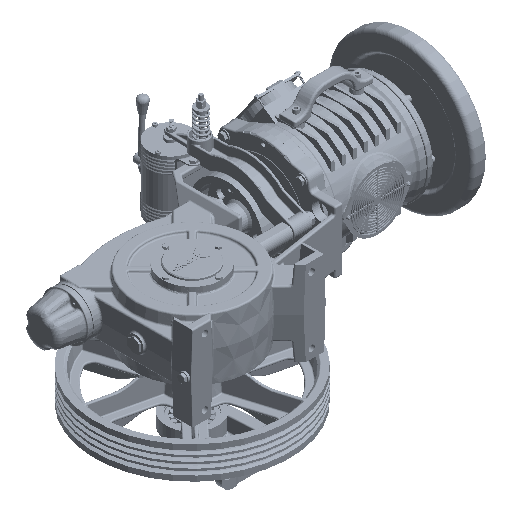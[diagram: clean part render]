
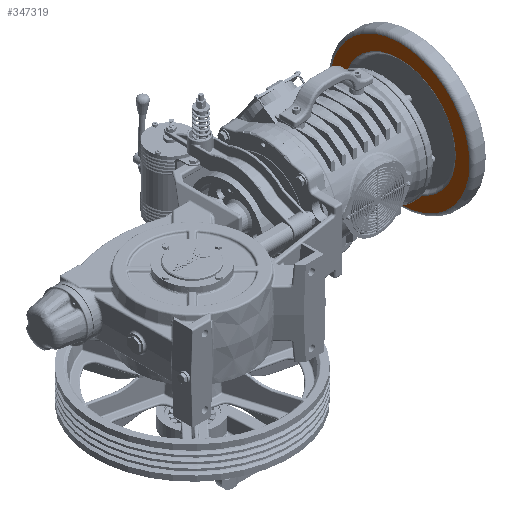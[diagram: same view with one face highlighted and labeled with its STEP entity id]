
A CAD part, isometric view. The second image highlights one B-rep face of the part: STEP entity #347319.
In plain terms, the highlighted planar face has unit normal (-1, 0, 0).
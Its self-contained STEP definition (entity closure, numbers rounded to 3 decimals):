
#39161 = AXIS2_PLACEMENT_3D ( 'NONE', #312852, #485429, #445772 ) ;
#44591 = CARTESIAN_POINT ( 'NONE',  ( 234.876, 46.366, 178.986 ) ) ;
#61684 = CIRCLE ( 'NONE', #558992, 152.887 ) ;
#65727 = VERTEX_POINT ( 'NONE', #242021 ) ;
#69615 = FACE_BOUND ( 'NONE', #262843, .T. ) ;
#94950 = DIRECTION ( 'NONE',  ( 0., 0.336, -0.942 ) ) ;
#95785 = CARTESIAN_POINT ( 'NONE',  ( 234.876, 110.115, 0. ) ) ;
#171811 = CIRCLE ( 'NONE', #316428, 190. ) ;
#190593 = CARTESIAN_POINT ( 'NONE',  ( 234.876, 173.865, -178.986 ) ) ;
#191881 = DIRECTION ( 'NONE',  ( 1., 0., 0. ) ) ;
#197003 = CIRCLE ( 'NONE', #386464, 190. ) ;
#218516 = EDGE_CURVE ( 'NONE', #498709, #361433, #197003, .T. ) ;
#229096 = CIRCLE ( 'NONE', #39161, 152.887 ) ;
#242021 = CARTESIAN_POINT ( 'NONE',  ( 234.876, 161.412, -144.024 ) ) ;
#242264 = FACE_OUTER_BOUND ( 'NONE', #493696, .T. ) ;
#262843 = EDGE_LOOP ( 'NONE', ( #438886, #481731 ) ) ;
#269556 = EDGE_CURVE ( 'NONE', #361433, #498709, #171811, .T. ) ;
#310058 = DIRECTION ( 'NONE',  ( 1., 0., 0. ) ) ;
#312852 = CARTESIAN_POINT ( 'NONE',  ( 234.876, 110.115, 0. ) ) ;
#316428 = AXIS2_PLACEMENT_3D ( 'NONE', #95785, #191881, #537064 ) ;
#332787 = CARTESIAN_POINT ( 'NONE',  ( 234.876, 254.14, 51.297 ) ) ;
#335930 = ORIENTED_EDGE ( 'NONE', *, *, #269556, .F. ) ;
#347319 = ADVANCED_FACE ( 'NONE', ( #69615, #242264 ), #414913, .T. ) ;
#349329 = DIRECTION ( 'NONE',  ( 1., 0., 0. ) ) ;
#361433 = VERTEX_POINT ( 'NONE', #44591 ) ;
#371878 = EDGE_CURVE ( 'NONE', #65727, #435811, #229096, .T. ) ;
#384336 = EDGE_CURVE ( 'NONE', #435811, #65727, #61684, .T. ) ;
#386464 = AXIS2_PLACEMENT_3D ( 'NONE', #400545, #310058, #94950 ) ;
#391305 = DIRECTION ( 'NONE',  ( 0., -0.336, 0.942 ) ) ;
#391801 = CARTESIAN_POINT ( 'NONE',  ( 234.876, 110.115, 0. ) ) ;
#400148 = DIRECTION ( 'NONE',  ( 0., 0.336, -0.942 ) ) ;
#400545 = CARTESIAN_POINT ( 'NONE',  ( 234.876, 110.115, 0. ) ) ;
#414913 = PLANE ( 'NONE',  #517425 ) ;
#435811 = VERTEX_POINT ( 'NONE', #525877 ) ;
#438886 = ORIENTED_EDGE ( 'NONE', *, *, #371878, .T. ) ;
#445772 = DIRECTION ( 'NONE',  ( 0., 0.336, -0.942 ) ) ;
#481731 = ORIENTED_EDGE ( 'NONE', *, *, #384336, .T. ) ;
#485429 = DIRECTION ( 'NONE',  ( 1., 0., 0. ) ) ;
#493696 = EDGE_LOOP ( 'NONE', ( #522603, #335930 ) ) ;
#498709 = VERTEX_POINT ( 'NONE', #190593 ) ;
#517425 = AXIS2_PLACEMENT_3D ( 'NONE', #332787, #524211, #391305 ) ;
#522603 = ORIENTED_EDGE ( 'NONE', *, *, #218516, .F. ) ;
#524211 = DIRECTION ( 'NONE',  ( -1., 0., 0. ) ) ;
#525877 = CARTESIAN_POINT ( 'NONE',  ( 234.876, 58.819, 144.024 ) ) ;
#537064 = DIRECTION ( 'NONE',  ( 0., 0.336, -0.942 ) ) ;
#558992 = AXIS2_PLACEMENT_3D ( 'NONE', #391801, #349329, #400148 ) ;
